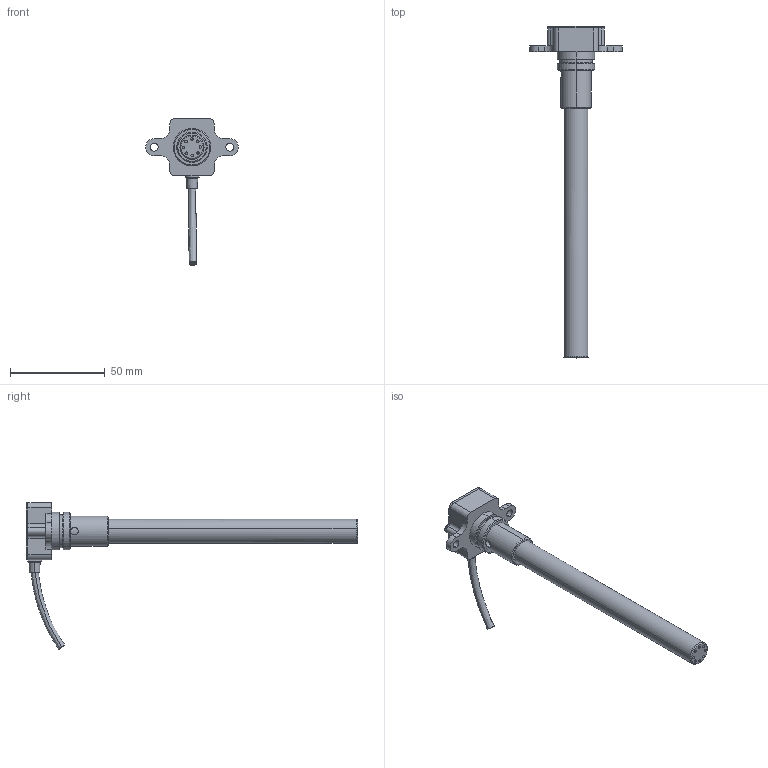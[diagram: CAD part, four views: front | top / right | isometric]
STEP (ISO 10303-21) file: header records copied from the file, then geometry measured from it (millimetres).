
FILE_DESCRIPTION (( 'STEP AP203' ), '1' );
FILE_NAME ('618-1001 - 2 Hole Variant_defeature.STEP', '2024-04-23T17:08:58', ( '' ), ( '' ), 'SwSTEP 2.0', 'SolidWorks 2023', '' );
FILE_SCHEMA (( 'CONFIG_CONTROL_DESIGN' ));
Length unit declared in the file: millimetre
Products named in the file (1): 618-1001 - 2 Hole Variant_defeature
Bounding box: 49 x 175.5 x 77.59 mm (x, y, z)
Volume: 30285.9 mm3; surface area: 14014.5 mm2
Topology: 4 solids, 4 shells, 252 faces, 639 edges, 416 vertices
Faces by surface type: cylinder 147, plane 77, bspline 13, cone 8, torus 7
Entity records: 13122 total; most frequent: CARTESIAN_POINT 7080, ORIENTED_EDGE 1278, DIRECTION 1188, EDGE_CURVE 639, AXIS2_PLACEMENT_3D 448, VERTEX_POINT 416, LINE 292, VECTOR 292
